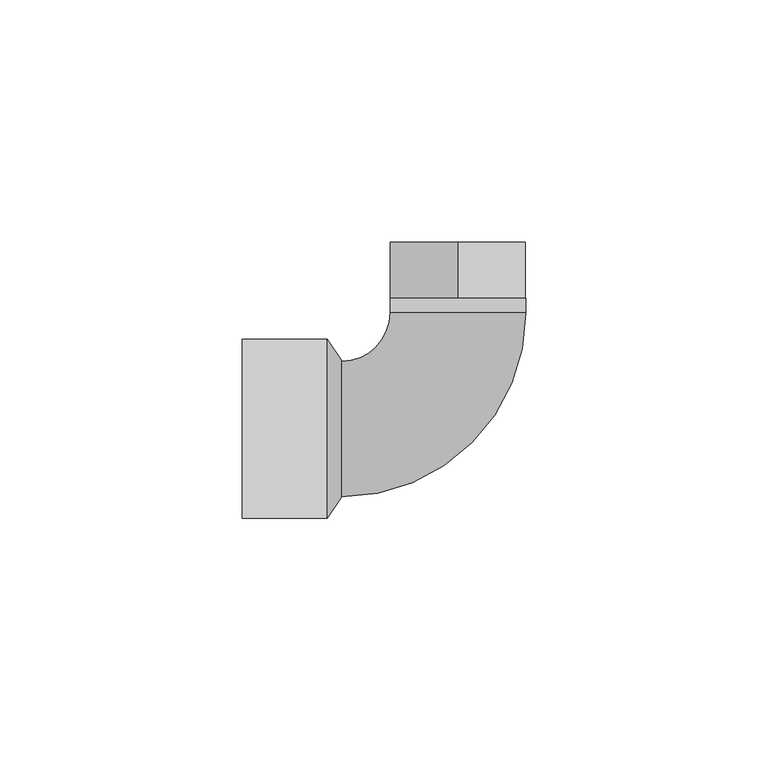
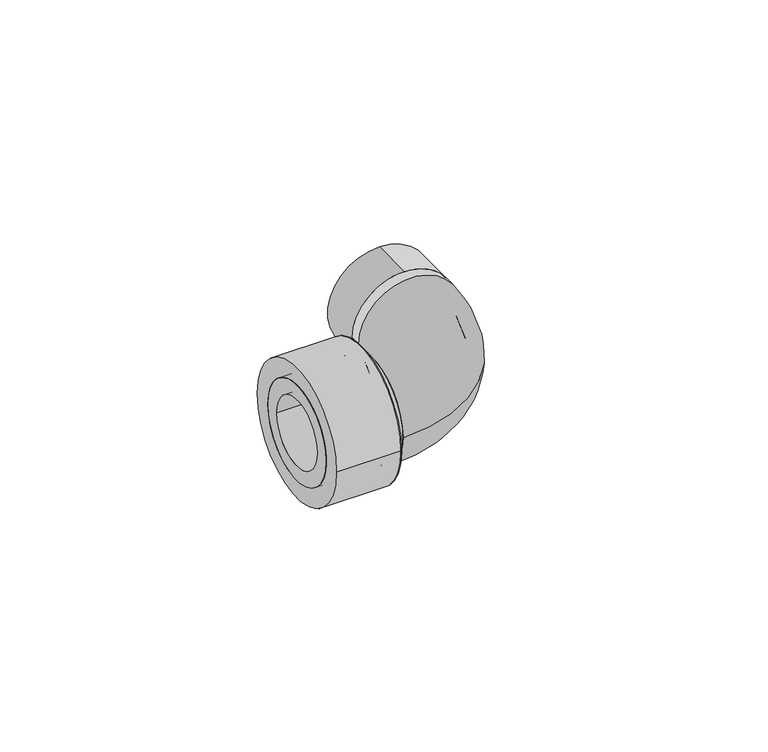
"""IFC4 building model written with IfcOpenShell, lengths in millimetres: pipe fitting geometry, 36_Угольник комбинированный ВР : Серый цвет."""

from ifc_helpers import new_model, si_unit, point, frame, frame_2d, origin, origin_2d, place, context, project, spatial, polyline, circle_curve, ellipse_curve, trimmed, segment, composite_curve, outline, extrude, source, transform, mapped, element, save
from ifc_brep_helpers import plane_surface, revolved_surface, advanced_brep


def pipe_fitting_ed917fae(model_context):
    return source(origin(), model_context, "Body", "SolidModel", [
        extrude(outline(composite_curve([segment(trimmed(circle_curve(origin_2d(), 13.5), [point((-13.5, 0.0))], [point((13.5, 0.0))], False, "CARTESIAN"), True, "CONTINUOUS"), segment(trimmed(circle_curve(origin_2d(), 13.5), [point((13.5, 0.0))], [point((-13.5, 0.0))], False, "CARTESIAN"), True, "CONTINUOUS")], self_intersect=False), holes=[composite_curve([segment(trimmed(circle_curve(origin_2d(), 9.4), [point((-9.4, 0.0))], [point((9.4, 0.0))], True, "CARTESIAN"), True, "CONTINUOUS"), segment(trimmed(circle_curve(origin_2d(), 9.4), [point((9.4, 0.0))], [point((-9.4, 0.0))], True, "CARTESIAN"), True, "CONTINUOUS")], self_intersect=False)]), frame((-40.85, 0.0, 0.0), z_axis=(1.0, 0.0, 0.0), x_axis=(0.0, 1.0, 0.0)), (0.0, 0.0, 1.0), 17.5),
        advanced_brep(
        [(-10.35, 24.0, 0.0), (17.65, 24.0, 0.0), (-6.35, 24.0, 0.0), (13.65, 24.0, 0.0), (-20.35, 14.0, 0.0), (-20.35, -14.0, 0.0), (-20.35, 10.0, 0.0), (-20.35, -10.0, 0.0)],
        [
            (0, 1, circle_curve(frame((3.65, 24.0, 0.0), z_axis=(0.0, 1.0, 0.0), x_axis=(1.0, 0.0, 0.0)), 14.0)),
            (1, 0, circle_curve(frame((3.65, 24.0, 0.0), z_axis=(0.0, 1.0, 0.0), x_axis=(1.0, 0.0, 0.0)), 14.0)),
            (2, 3, circle_curve(frame((3.65, 24.0, 0.0), z_axis=(0.0, -1.0, 0.0), x_axis=(1.0, 0.0, 0.0)), 10.0)),
            (3, 2, circle_curve(frame((3.65, 24.0, 0.0), z_axis=(0.0, -1.0, 0.0), x_axis=(1.0, 0.0, 0.0)), 10.0)),
            (4, 5, circle_curve(frame((-20.35, 0.0, 0.0), z_axis=(-1.0, 0.0, 0.0), x_axis=(0.0, -1.0, 0.0)), 14.0)),
            (5, 4, circle_curve(frame((-20.35, 0.0, 0.0), z_axis=(-1.0, 0.0, 0.0), x_axis=(0.0, -1.0, 0.0)), 14.0)),
            (6, 7, circle_curve(frame((-20.35, 0.0, 0.0), z_axis=(1.0, 0.0, 0.0), x_axis=(0.0, -1.0, 0.0)), 10.0)),
            (7, 6, circle_curve(frame((-20.35, 0.0, 0.0), z_axis=(1.0, 0.0, 0.0), x_axis=(0.0, -1.0, 0.0)), 10.0)),
            (5, 1, circle_curve(frame((-20.35, 24.0, 0.0), z_axis=(0.0, 0.0, 1.0), x_axis=(1.0, 0.0, 0.0)), 38.0)),
            (0, 4, circle_curve(frame((-20.35, 24.0, 0.0), z_axis=(0.0, 0.0, -1.0), x_axis=(1.0, 0.0, 0.0)), 10.0)),
            (7, 3, circle_curve(frame((-20.35, 24.0, 0.0), z_axis=(0.0, 0.0, 1.0), x_axis=(1.0, 0.0, 0.0)), 34.0)),
            (2, 6, circle_curve(frame((-20.35, 24.0, 0.0), z_axis=(0.0, 0.0, -1.0), x_axis=(1.0, 0.0, 0.0)), 14.0)),
        ],
        [
            plane_surface(frame((3.65, 24.0, 0.0), z_axis=(0.0, 1.0, 0.0), x_axis=(0.0, 0.0, 1.0))),
            plane_surface(frame((-20.35, 0.0, 0.0), z_axis=(-1.0, 0.0, 0.0), x_axis=(0.0, 0.0, 1.0))),
            revolved_surface(trimmed(ellipse_curve(frame((3.65, 24.0, 0.0), z_axis=(0.0, 1.0, 0.0), x_axis=(1.0, 0.0, 0.0)), 14.0, 14.0), [point((-10.35, 24.0, 0.0))], [point((17.65, 24.0, 0.0))], True, "CARTESIAN"), (-20.35, 24.0, 0.0), (0.0, 0.0, -1.0)),
            revolved_surface(trimmed(ellipse_curve(frame((3.65, 24.0, 0.0), z_axis=(0.0, 1.0, 0.0), x_axis=(1.0, 0.0, 0.0)), 14.0, 14.0), [point((17.65, 24.0, 0.0))], [point((-10.35, 24.0, 0.0))], True, "CARTESIAN"), (-20.35, 24.0, 0.0), (0.0, 0.0, -1.0)),
            revolved_surface(trimmed(ellipse_curve(frame((3.65, 24.0, 0.0), z_axis=(0.0, -1.0, 0.0), x_axis=(1.0, 0.0, 0.0)), 10.0, 10.0), [point((-6.35, 24.0, 0.0))], [point((13.65, 24.0, 0.0))], True, "CARTESIAN"), (-20.35, 24.0, 0.0), (0.0, 0.0, -1.0)),
            revolved_surface(trimmed(ellipse_curve(frame((3.65, 24.0, 0.0), z_axis=(0.0, -1.0, 0.0), x_axis=(1.0, 0.0, 0.0)), 10.0, 10.0), [point((13.65, 24.0, 0.0))], [point((-6.35, 24.0, 0.0))], True, "CARTESIAN"), (-20.35, 24.0, 0.0), (0.0, 0.0, -1.0)),
        ],
        [
            (0, [[1, 2], [3, 4]]),
            (1, [[5, 6], [7, 8]]),
            (2, [[9, -1, 10, -6]]),
            (3, [[-10, -2, -9, -5]]),
            (4, [[11, -3, 12, -8]]),
            (5, [[-12, -4, -11, -7]]),
        ],
    ),
        advanced_brep(
        [(-20.35, -13.95, 0.0), (-20.35, 14.05, 0.0), (-20.35, 10.05, 0.0), (-20.35, -9.95, 0.0), (-23.35, -18.45, 0.0), (-23.35, 18.55, 0.0), (-23.35, -13.45, 0.0), (-23.35, 13.55, 0.0)],
        [
            (0, 1, circle_curve(frame((-20.35, 0.05, 0.0), z_axis=(1.0, 0.0, 0.0), x_axis=(0.0, -1.0, 0.0)), 14.0)),
            (1, 0, circle_curve(frame((-20.35, 0.05, 0.0), z_axis=(1.0, 0.0, 0.0), x_axis=(0.0, 1.0, 0.0)), 14.0)),
            (2, 3, circle_curve(frame((-20.35, 0.05, 0.0), z_axis=(-1.0, 0.0, -1.2355450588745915e-12), x_axis=(0.0, -1.0, 0.0)), 10.0)),
            (3, 2, circle_curve(frame((-20.35, 0.05, 0.0), z_axis=(-1.0, 0.0, -1.2355450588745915e-12), x_axis=(0.0, 1.0, 0.0)), 10.0)),
            (4, 5, circle_curve(frame((-23.35, 0.05, 0.0), z_axis=(-1.0, 0.0, 0.0), x_axis=(0.0, 1.0, 0.0)), 18.5)),
            (5, 4, circle_curve(frame((-23.35, 0.05, 0.0), z_axis=(-1.0, 0.0, 0.0), x_axis=(0.0, -1.0, 0.0)), 18.5)),
            (6, 7, circle_curve(frame((-23.35, 0.05, 0.0), z_axis=(1.0, 0.0, 1.2355450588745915e-12), x_axis=(0.0, -1.0, 0.0)), 13.5)),
            (7, 6, circle_curve(frame((-23.35, 0.05, 0.0), z_axis=(1.0, 0.0, 1.2355450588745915e-12), x_axis=(0.0, 1.0, 0.0)), 13.5)),
            (0, 4),
            (5, 1),
            (6, 3),
            (2, 7),
        ],
        [
            plane_surface(frame((-20.35, 0.05, 0.0), z_axis=(1.0, 0.0, 0.0), x_axis=(0.0, 0.0, -1.0))),
            plane_surface(frame((-23.35, 0.05, 0.0), z_axis=(-1.0, 0.0, 0.0), x_axis=(0.0, 0.0, -1.0))),
            revolved_surface(polyline([(-20.35, -13.949999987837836, 0.0), (-23.35, -18.45, 0.0)]), (-11.0166667, 0.05, 0.0), (-1.0, 0.0, 0.0)),
            revolved_surface(polyline([(-20.35, 14.049999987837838, 0.0), (-23.35, 18.55, 0.0)]), (-11.0166667, 0.05, 0.0), (-1.0, 0.0, 0.0)),
            revolved_surface(polyline([(-23.35, -13.45, 0.0), (-20.35, -9.950000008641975, 0.0)]), (-11.7785714, 0.05, 0.0), (-1.0, 0.0, -1.2355450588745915e-12)),
        ],
        [
            (0, [[1, 2], [3, 4]]),
            (1, [[5, 6], [7, 8]]),
            (2, [[-1, 9, -6, 10]]),
            (3, [[-2, -10, -5, -9]]),
            (4, [[11, -3, 12, -7]]),
            (4, [[-11, -8, -12, -4]]),
        ],
    ),
        extrude(outline(composite_curve([segment(trimmed(circle_curve(frame_2d((0.0, 3.65)), 14.0), [point((0.0, -10.35))], [point((0.0, 17.65))], False, "CARTESIAN"), True, "CONTINUOUS"), segment(trimmed(circle_curve(frame_2d((0.0, 3.65)), 14.0), [point((0.0, 17.65))], [point((0.0, -10.35))], False, "CARTESIAN"), True, "CONTINUOUS")], self_intersect=False), holes=[composite_curve([segment(trimmed(circle_curve(frame_2d((0.0, 3.65)), 10.0), [point((0.0, 13.65))], [point((0.0, -6.35))], True, "CARTESIAN"), True, "CONTINUOUS"), segment(trimmed(circle_curve(frame_2d((0.0, 3.65)), 10.0), [point((0.0, -6.35))], [point((0.0, 13.65))], True, "CARTESIAN"), True, "CONTINUOUS")], self_intersect=False)]), frame((0.0, 24.0, 0.0), z_axis=(0.0, 1.0, 0.0), x_axis=(0.0, 0.0, 1.0)), (0.0, 0.0, 1.0), 3.0),
        extrude(outline(composite_curve([segment(trimmed(circle_curve(frame_2d((0.0, 3.65)), 14.0), [point((-14.0, 3.65))], [point((14.0, 3.65))], False, "CARTESIAN"), True, "CONTINUOUS"), segment(trimmed(circle_curve(frame_2d((0.0, 3.65)), 14.0), [point((14.0, 3.65))], [point((-14.0, 3.65))], False, "CARTESIAN"), True, "CONTINUOUS")], self_intersect=False), holes=[composite_curve([segment(trimmed(circle_curve(frame_2d((0.0, 3.65)), 10.0), [point((-10.0, 3.65))], [point((10.0, 3.65))], True, "CARTESIAN"), True, "CONTINUOUS"), segment(trimmed(circle_curve(frame_2d((0.0, 3.65)), 10.0), [point((10.0, 3.65))], [point((-10.0, 3.65))], True, "CARTESIAN"), True, "CONTINUOUS")], self_intersect=False)]), frame((0.0, 27.0, 0.0), z_axis=(0.0, 1.0, 0.0), x_axis=(0.0, 0.0, 1.0)), (0.0, 0.0, 1.0), 11.55),
        extrude(outline(composite_curve([segment(trimmed(circle_curve(frame_2d((0.05, 0.0)), 18.5), [point((-18.45, 0.0))], [point((18.55, 0.0))], False, "CARTESIAN"), True, "CONTINUOUS"), segment(trimmed(circle_curve(frame_2d((0.05, 0.0)), 18.5), [point((18.55, 0.0))], [point((-18.45, 0.0))], False, "CARTESIAN"), True, "CONTINUOUS")], self_intersect=False), holes=[composite_curve([segment(trimmed(circle_curve(frame_2d((0.05, 0.0)), 13.5), [point((-13.45, 0.0))], [point((13.55, 0.0))], True, "CARTESIAN"), True, "CONTINUOUS"), segment(trimmed(circle_curve(frame_2d((0.05, 0.0)), 13.5), [point((13.55, 0.0))], [point((-13.45, 0.0))], True, "CARTESIAN"), True, "CONTINUOUS")], self_intersect=False)]), frame((-40.85, 0.0, 0.0), z_axis=(1.0, 0.0, 0.0), x_axis=(0.0, 1.0, 0.0)), (0.0, 0.0, 1.0), 17.5),
    ])


if __name__ == "__main__":
    model = new_model("IFC4")
    model_context = context("Model", 3, world=origin())
    ifc_project = project(units=[si_unit("LENGTHUNIT", "METRE", prefix="MILLI")], contexts=[model_context])
    site = spatial("IfcSite", under=ifc_project)
    building = spatial("IfcBuilding", under=site)
    placement = place(None, origin())
    pipe_fitting_shape = pipe_fitting_ed917fae(model_context)
    element("IfcPipeFitting", 1, ObjectType="36_Угольник комбинированный ВР : Серый цвет", at=placement, inside=building, context=model_context, shape_type="MappedRepresentation", body=[
        mapped(pipe_fitting_shape, transform((0.0, 0.0, 0.0), x_axis=(1.0, 0.0, 0.0), y_axis=(0.0, 1.0, 0.0), z_axis=(0.0, 0.0, 1.0))),
    ])
    save(model, "model.ifc")
